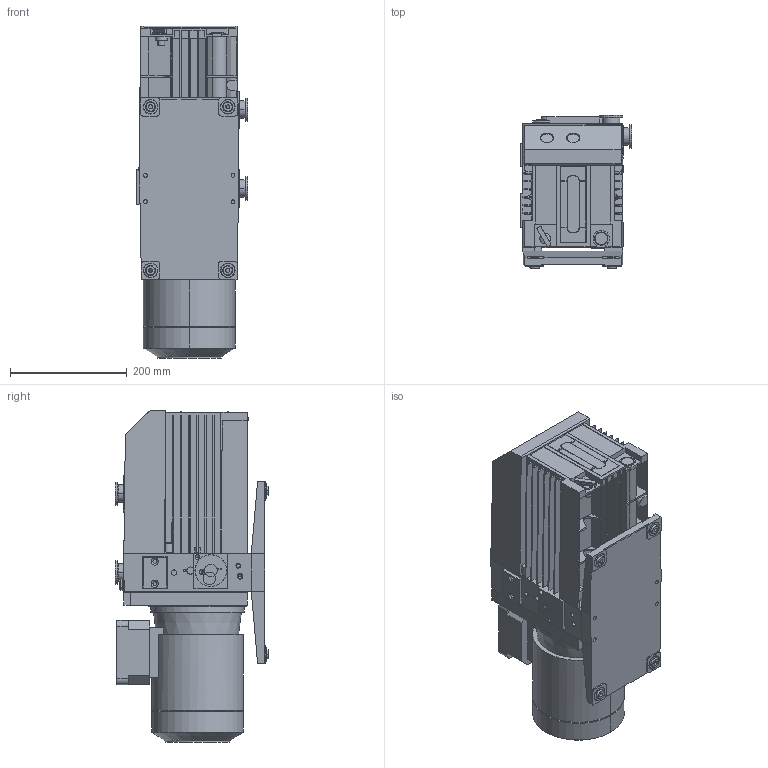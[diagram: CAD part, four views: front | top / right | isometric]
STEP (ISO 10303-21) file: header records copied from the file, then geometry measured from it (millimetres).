
FILE_DESCRIPTION((''),'2;1');
FILE_NAME('300591199_Y19_000_ASM','2016-03-09T',('56762'),('Copyright by Leybold GmbH'),'PRO/ENGINEER BY PARAMETRIC TECHNOLOGY CORPORATION, 2013320','PRO/ENGINEER BY PARAMETRIC TECHNOLOGY CORPORATION, 2013320','');
FILE_SCHEMA(('AUTOMOTIVE_DESIGN { 1 0 10303 214 1 1 1 1 }'));
Length unit declared in the file: millimetre
Products named in the file (25): 300591185_Y19_000; 300591187_Y19_000; 300591204_Y19_000; 300591212_Y19_000; 300591215_Y19_000; 300591188_Y19_000; 300591211_Y19_000; 300591201_Y19_000; 300590946_Y19_000; 300591208_Y19_000; 300591209_Y19_000; 300591197_Y19_000_ASM; 300590938_Y19_000; 300592868_Y19_000; 300591217_Y19_000; 300590920_Y19_000; 300590916_Y19_000; 300590915_Y19_000; 300590913_Y19_000; 300590922_Y19_000_ASM; 300590935_Y19_000; 300591196_Y19_000; 300590903_Y19_000; 300590892_Y19_000; 300591199_Y19_000_ASM
Assembly tree (32 placements, depth 3):
  300591199_Y19_000_ASM
    300591197_Y19_000_ASM
      300591185_Y19_000
      300591187_Y19_000
      300591204_Y19_000
      300591212_Y19_000
      300591215_Y19_000
      300591188_Y19_000
      300591211_Y19_000
      300591201_Y19_000
      300590946_Y19_000
      300591208_Y19_000
      300591209_Y19_000
    300590938_Y19_000  x4
    300592868_Y19_000
    300591217_Y19_000
    300590922_Y19_000_ASM
      300590920_Y19_000
      300590916_Y19_000
      300590915_Y19_000
      300590913_Y19_000
    300590935_Y19_000  x3
    300591196_Y19_000  x4
    300590903_Y19_000
    300590892_Y19_000
Bounding box: 190.4 x 262 x 568.29 mm (x, y, z)
Volume: 16462975.9 mm3; surface area: 1256297.6 mm2
Topology: 29 solids, 36 shells, 1272 faces, 3234 edges, 2108 vertices
Faces by surface type: plane 807, cylinder 317, cone 146, torus 2
Entity records: 34844 total; most frequent: CARTESIAN_POINT 6857, DIRECTION 5561, ORIENTED_EDGE 5444, EDGE_CURVE 2722, VECTOR 1999, LINE 1999, VERTEX_POINT 1784, AXIS2_PLACEMENT_3D 1781
